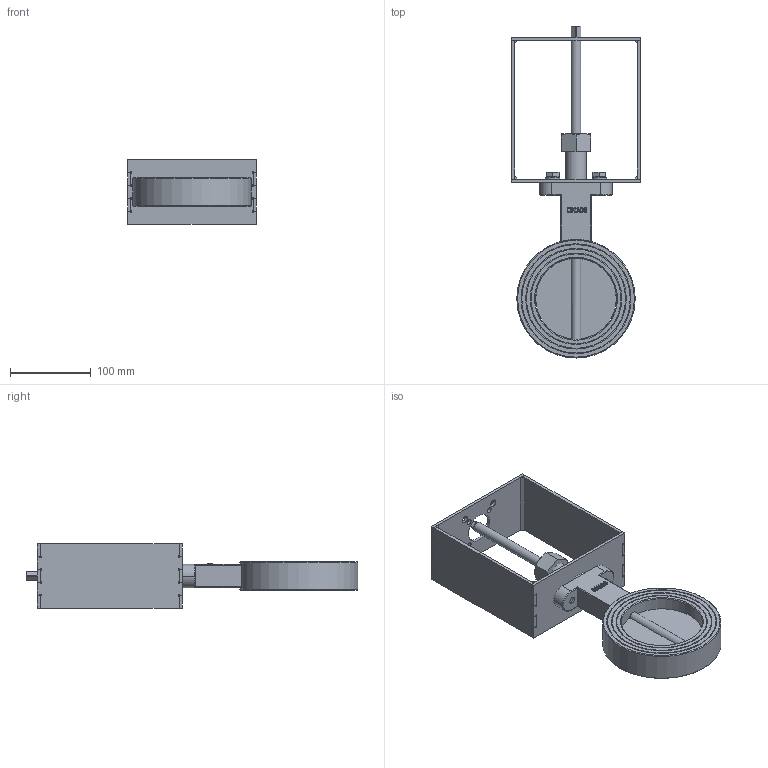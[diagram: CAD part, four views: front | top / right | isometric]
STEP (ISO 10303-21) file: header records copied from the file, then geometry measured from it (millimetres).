
FILE_DESCRIPTION(/* description */ (''),/* implementation_level */ '2;1');
FILE_NAME(/* name */ 'S:\Technik-3D\Typ 5k Drosselklappen\Typ 5k DN100\Typ 5k DN100.stp',/* time_stamp */ '2015-10-30T09:35:19+01:00',/* author */ ('Technik-3D'),/* organization */ (''),/* preprocessor_version */ 'ST-DEVELOPER v16.1',/* originating_system */ 'Autodesk Inventor 2016',/* authorisation */ '');
FILE_SCHEMA (('AUTOMOTIVE_DESIGN { 1 0 10303 214 3 1 1 }'));
Length unit declared in the file: millimetre
Products named in the file (14): Gussring DN100; Graphitbuchse d=12; Stopfbuchse d=12 MS; ISO 49 Kappe T1 3_4; Konsole F05-07 Gußring_Schweißnähte; Unterteil Konsole F04,05,07 für Gussring; Seitenteil F05, F07, ST; Oberteil Konsole F05, F07; DIN 127 - A 10; ISO 4017 - M10 x 20DIN EN; Konsole F05-07 Gußring; Welle DN100; Ronde DN100; Typ 5k DN100
Assembly tree (16 placements, depth 3):
  Typ 5k DN100
    Gussring DN100
    Graphitbuchse d=12
    Stopfbuchse d=12 MS
    ISO 49 Kappe T1 3_4
    Konsole F05-07 Gußring
      Konsole F05-07 Gußring_Schweißnähte
      Unterteil Konsole F04,05,07 für Gussring
      Seitenteil F05, F07, ST  x2
      Oberteil Konsole F05, F07
      DIN 127 - A 10  x2
      ISO 4017 - M10 x 20DIN EN  x2
    Welle DN100
    Ronde DN100
Bounding box: 160 x 412 x 80 mm (x, y, z)
Volume: 706299.7 mm3; surface area: 235567 mm2
Topology: 18 solids, 18 shells, 394 faces, 960 edges, 630 vertices
Faces by surface type: plane 226, cylinder 92, cone 39, bspline 33, torus 4
Full cylindrical faces by diameter (mm): 7 x4, 8.376 x2, 9 x4, 10 x2, 11 x2, 12 x2, 12.5 x3, 13 x1, 14.63 x2, 17.5 x1, 18 x2, 20 x1, 26 x1, 35 x1, 37 x1, 100 x1, 101 x1, 111.5 x2, 113.5 x2, 123 x2, 125 x2, 134.5 x2, 136.5 x2, 147 x1
Entity records: 10195 total; most frequent: CARTESIAN_POINT 2277, DIRECTION 1509, ORIENTED_EDGE 1496, EDGE_CURVE 748, AXIS2_PLACEMENT_3D 537, VERTEX_POINT 523, EDGE_LOOP 461, LINE 435
